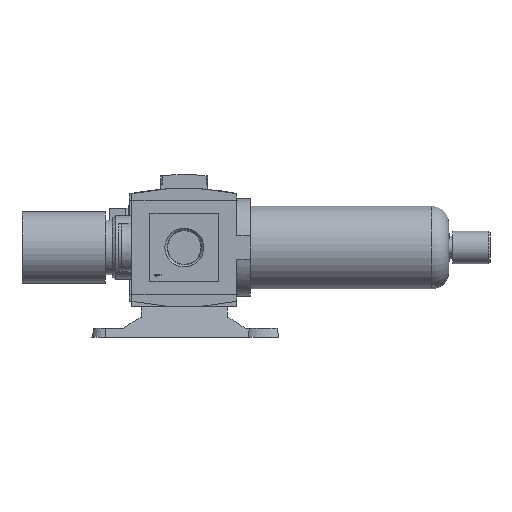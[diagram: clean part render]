
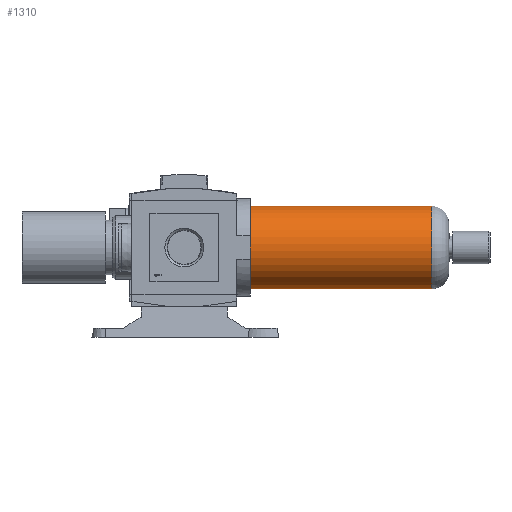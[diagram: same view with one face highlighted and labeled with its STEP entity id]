
A CAD part, left-side view. The second image highlights one B-rep face of the part: STEP entity #1310.
In plain terms, the highlighted cylindrical face has radius 24.25 mm (diameter 48.5 mm), a full revolution.
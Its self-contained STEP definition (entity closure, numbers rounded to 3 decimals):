
#1310 = ADVANCED_FACE( '', ( #2869, #2870 ), #2871, .T. );
#2869 = FACE_OUTER_BOUND( '', #4897, .T. );
#2870 = FACE_OUTER_BOUND( '', #4898, .T. );
#2871 = CYLINDRICAL_SURFACE( '', #4899, 24.25 );
#4897 = EDGE_LOOP( '', ( #7816 ) );
#4898 = EDGE_LOOP( '', ( #7817 ) );
#4899 = AXIS2_PLACEMENT_3D( '', #7818, #7819, #7820 );
#7816 = ORIENTED_EDGE( '', *, *, #11929, .F. );
#7817 = ORIENTED_EDGE( '', *, *, #12249, .T. );
#7818 = CARTESIAN_POINT( '', ( 0., -115.5, 0. ) );
#7819 = DIRECTION( '', ( 0., 1., 0. ) );
#7820 = DIRECTION( '', ( 0., 0., -1. ) );
#11929 = EDGE_CURVE( '', #14233, #14233, #14234, .T. );
#12249 = EDGE_CURVE( '', #14738, #14738, #14739, .T. );
#14233 = VERTEX_POINT( '', #17518 );
#14234 = CIRCLE( '', #17519, 24.25 );
#14738 = VERTEX_POINT( '', #18272 );
#14739 = CIRCLE( '', #18273, 24.25 );
#17518 = CARTESIAN_POINT( '', ( 0., -105.5, -24.25 ) );
#17519 = AXIS2_PLACEMENT_3D( '', #20996, #20997, #20998 );
#18272 = CARTESIAN_POINT( '', ( 0., 0., -24.25 ) );
#18273 = AXIS2_PLACEMENT_3D( '', #21329, #21330, #21331 );
#20996 = CARTESIAN_POINT( '', ( 0., -105.5, 0. ) );
#20997 = DIRECTION( '', ( 0., -1., 0. ) );
#20998 = DIRECTION( '', ( 0., 0., -1. ) );
#21329 = CARTESIAN_POINT( '', ( 0., 0., 0. ) );
#21330 = DIRECTION( '', ( 0., -1., 0. ) );
#21331 = DIRECTION( '', ( 0., 0., -1. ) );
